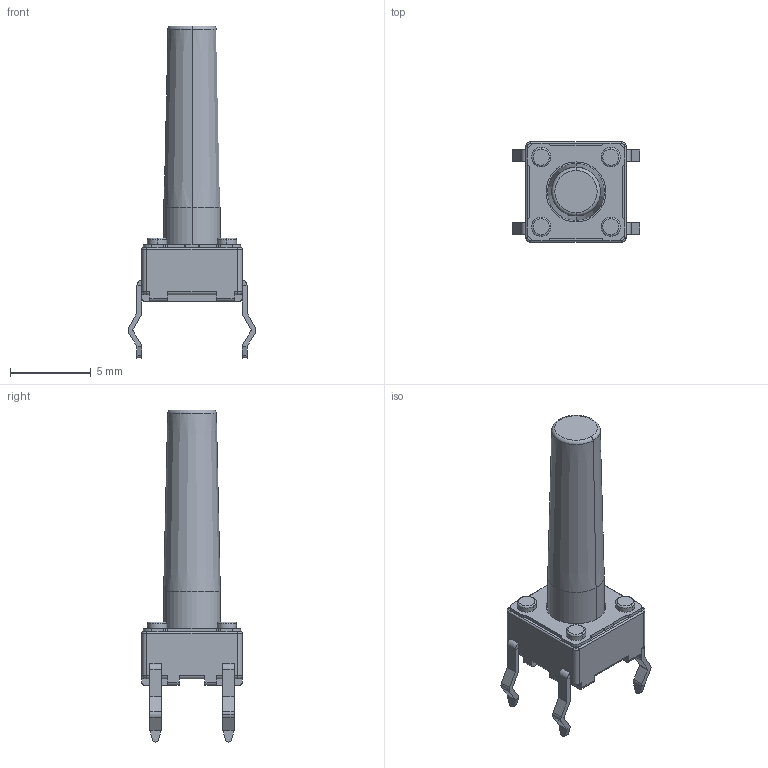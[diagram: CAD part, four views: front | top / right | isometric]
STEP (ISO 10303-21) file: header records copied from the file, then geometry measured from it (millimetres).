
FILE_DESCRIPTION (( 'STEP AP214' ), '1' );
FILE_NAME ('SKHHDH.STEP', '2009-11-25T03:58:49', ( ' ' ), ( ' ' ), 'SwSTEP 2.0', 'SolidWorks 2007', '' );
FILE_SCHEMA (( 'AUTOMOTIVE_DESIGN' ));
Length unit declared in the file: millimetre
Products named in the file (1): SKHHDH
Bounding box: 7.9 x 6.2 x 20.5 mm (x, y, z)
Volume: 242.3 mm3; surface area: 359.9 mm2
Topology: 1 solids, 5 shells, 284 faces, 728 edges, 460 vertices
Faces by surface type: plane 136, cylinder 128, torus 18, cone 2
Entity records: 11490 total; most frequent: DIRECTION 1584, CARTESIAN_POINT 1473, ORIENTED_EDGE 1456, EDGE_CURVE 728, AXIS2_PLACEMENT_3D 571, VERTEX_POINT 460, VECTOR 442, LINE 442
